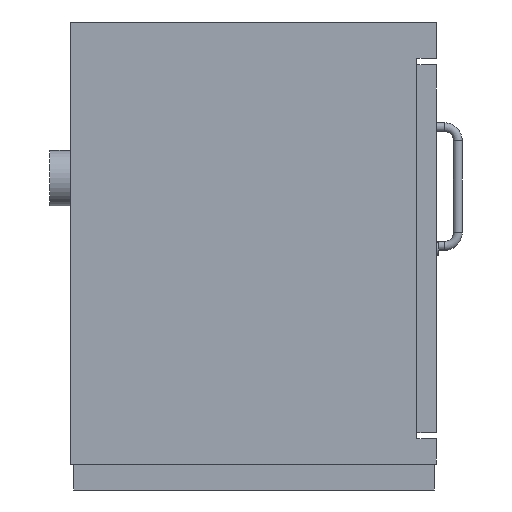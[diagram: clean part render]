
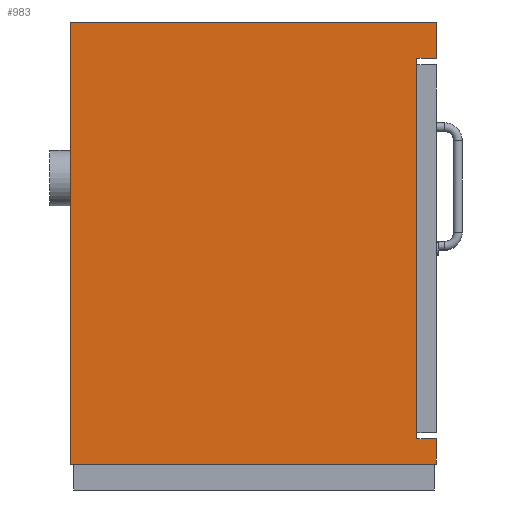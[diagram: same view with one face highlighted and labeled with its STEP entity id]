
A CAD part, left-side view. The second image highlights one B-rep face of the part: STEP entity #983.
In plain terms, the highlighted planar face has unit normal (-1, 0, 0).
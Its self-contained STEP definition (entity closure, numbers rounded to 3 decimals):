
#51=LINE('',#1363,#111);
#52=LINE('',#1365,#112);
#57=LINE('',#1375,#117);
#60=LINE('',#1381,#120);
#61=LINE('',#1383,#121);
#76=LINE('',#1416,#136);
#77=LINE('',#1418,#137);
#78=LINE('',#1420,#138);
#111=VECTOR('',#1180,1000.);
#112=VECTOR('',#1183,1000.);
#117=VECTOR('',#1190,1000.);
#120=VECTOR('',#1195,1000.);
#121=VECTOR('',#1198,1000.);
#136=VECTOR('',#1229,1000.);
#137=VECTOR('',#1232,1000.);
#138=VECTOR('',#1233,1000.);
#290=ORIENTED_EDGE('',*,*,#372,.F.);
#291=ORIENTED_EDGE('',*,*,#369,.T.);
#292=ORIENTED_EDGE('',*,*,#364,.T.);
#293=ORIENTED_EDGE('',*,*,#363,.F.);
#294=ORIENTED_EDGE('',*,*,#389,.F.);
#295=ORIENTED_EDGE('',*,*,#390,.T.);
#296=ORIENTED_EDGE('',*,*,#391,.T.);
#297=ORIENTED_EDGE('',*,*,#373,.F.);
#363=EDGE_CURVE('',#435,#432,#51,.T.);
#364=EDGE_CURVE('',#436,#432,#52,.T.);
#369=EDGE_CURVE('',#439,#436,#57,.T.);
#372=EDGE_CURVE('',#439,#441,#60,.T.);
#373=EDGE_CURVE('',#441,#442,#61,.T.);
#389=EDGE_CURVE('',#451,#435,#76,.T.);
#390=EDGE_CURVE('',#451,#452,#77,.T.);
#391=EDGE_CURVE('',#452,#442,#78,.T.);
#432=VERTEX_POINT('',#1357);
#435=VERTEX_POINT('',#1362);
#436=VERTEX_POINT('',#1366);
#439=VERTEX_POINT('',#1373);
#441=VERTEX_POINT('',#1379);
#442=VERTEX_POINT('',#1384);
#451=VERTEX_POINT('',#1415);
#452=VERTEX_POINT('',#1419);
#534=EDGE_LOOP('',(#290,#291,#292,#293,#294,#295,#296,#297));
#602=FACE_BOUND('',#534,.T.);
#636=PLANE('',#1050);
#983=ADVANCED_FACE('',(#602),#636,.F.);
#1050=AXIS2_PLACEMENT_3D('',#1417,#1230,#1231);
#1180=DIRECTION('',(0.,0.,-1.));
#1183=DIRECTION('',(0.,-1.,0.));
#1190=DIRECTION('',(0.,0.,1.));
#1195=DIRECTION('',(0.,-1.,0.));
#1198=DIRECTION('',(0.,0.,-1.));
#1229=DIRECTION('',(0.,-1.,0.));
#1230=DIRECTION('',(1.,0.,0.));
#1231=DIRECTION('',(0.,0.,-1.));
#1232=DIRECTION('',(0.,0.,-1.));
#1233=DIRECTION('',(0.,-1.,0.));
#1357=CARTESIAN_POINT('',(0.,0.,547.));
#1362=CARTESIAN_POINT('',(0.,0.,596.));
#1363=CARTESIAN_POINT('',(0.,0.,596.));
#1365=CARTESIAN_POINT('',(0.,26.,547.));
#1366=CARTESIAN_POINT('',(0.,26.,547.));
#1373=CARTESIAN_POINT('',(0.,26.,34.));
#1375=CARTESIAN_POINT('',(0.,26.,547.));
#1379=CARTESIAN_POINT('',(0.,0.,34.));
#1381=CARTESIAN_POINT('',(0.,26.,34.));
#1383=CARTESIAN_POINT('',(0.,0.,596.));
#1384=CARTESIAN_POINT('',(0.,0.,0.));
#1415=CARTESIAN_POINT('',(0.,493.5,596.));
#1416=CARTESIAN_POINT('',(0.,493.,596.));
#1417=CARTESIAN_POINT('',(0.,493.,596.));
#1418=CARTESIAN_POINT('',(0.,493.5,596.));
#1419=CARTESIAN_POINT('',(0.,493.5,0.));
#1420=CARTESIAN_POINT('',(0.,493.,0.));
